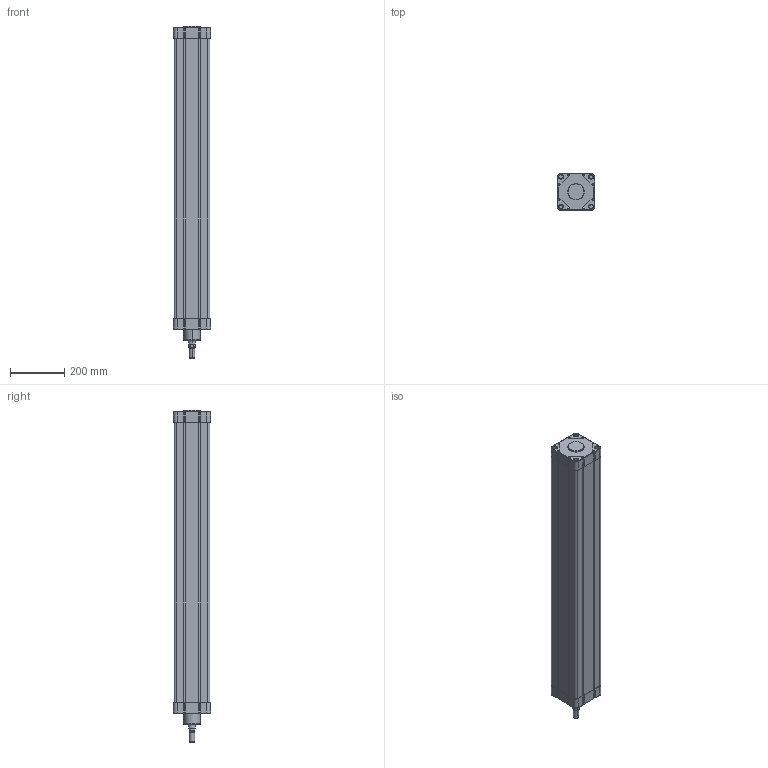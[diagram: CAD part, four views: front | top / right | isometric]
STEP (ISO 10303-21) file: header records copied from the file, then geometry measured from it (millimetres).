
FILE_DESCRIPTION((''),'2;1');
FILE_NAME('N11M21250950.stp','2010-01-07T00:45:45',('B. Petkovic 2010'),('AZ PNEUMATICA S.r.l.'),'Mechanical Desktop 2006','Mechanical Desktop 2006','Via Marco Biagi 6, I-20020 Misinto(MI) Italy, azpneu@tin.it');
FILE_SCHEMA(('CONFIG_CONTROL_DESIGN'));
Length unit declared in the file: millimetre
Products named in the file (2): N11M21000950; CILINDAR
Assembly tree (1 placements, depth 2):
  N11M21000950
    CILINDAR
Bounding box: 136 x 136 x 1220 mm (x, y, z)
Volume: 19171724.3 mm3; surface area: 758916.1 mm2
Topology: 1 solids, 1 shells, 686 faces, 1761 edges, 1120 vertices
Faces by surface type: cylinder 316, plane 290, torus 40, bspline 36, cone 4
Entity records: 22562 total; most frequent: CARTESIAN_POINT 5253, DIRECTION 3833, ORIENTED_EDGE 3522, EDGE_CURVE 1761, AXIS2_PLACEMENT_3D 1424, VERTEX_POINT 1120, VECTOR 985, LINE 985
